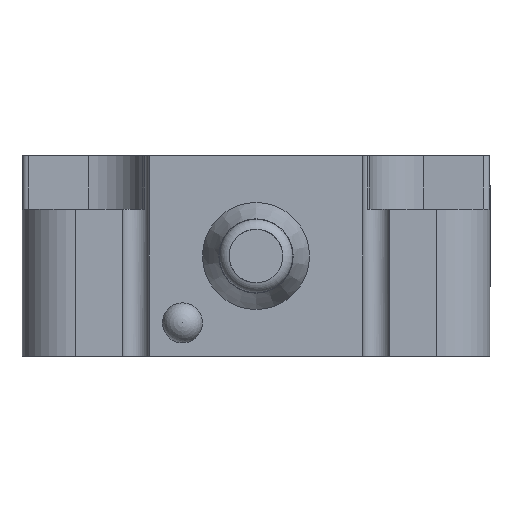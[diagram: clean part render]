
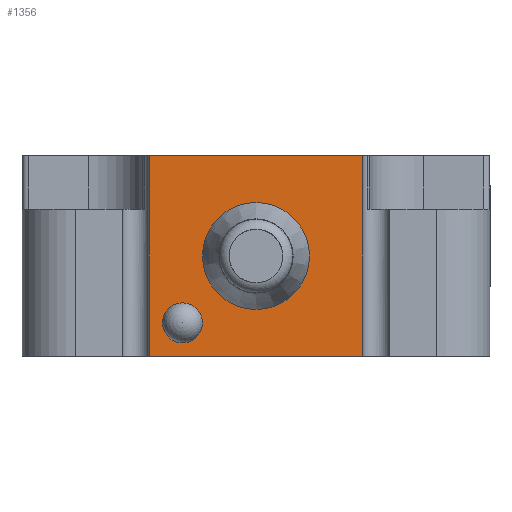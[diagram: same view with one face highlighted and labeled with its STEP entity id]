
A CAD part, left-side view. The second image highlights one B-rep face of the part: STEP entity #1356.
In plain terms, the highlighted planar face has unit normal (-1, 0, 0).
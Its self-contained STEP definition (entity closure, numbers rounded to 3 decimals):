
#1356=ADVANCED_FACE('',(#3316,#3317,#3318),#3319,.F.);
#3316=FACE_BOUND('',#5876,.T.);
#3317=FACE_BOUND('',#5877,.T.);
#3318=FACE_OUTER_BOUND('',#5878,.T.);
#3319=PLANE('',#5879);
#5876=EDGE_LOOP('',(#10337));
#5877=EDGE_LOOP('',(#10338));
#5878=EDGE_LOOP('',(#10339,#10340,#10341,#10342));
#5879=AXIS2_PLACEMENT_3D('',#10343,#10344,#10345);
#10337=ORIENTED_EDGE('',*,*,#17125,.T.);
#10338=ORIENTED_EDGE('',*,*,#17126,.T.);
#10339=ORIENTED_EDGE('',*,*,#17127,.F.);
#10340=ORIENTED_EDGE('',*,*,#16549,.F.);
#10341=ORIENTED_EDGE('',*,*,#16784,.F.);
#10342=ORIENTED_EDGE('',*,*,#16814,.T.);
#10343=CARTESIAN_POINT('',(-17.5,17.5,15.0));
#10344=DIRECTION('',(1.0,0.0,0.0));
#10345=DIRECTION('',(0.0,0.0,-1.0));
#16549=EDGE_CURVE('',#20520,#20522,#20523,.T.);
#16784=EDGE_CURVE('',#20880,#20520,#20882,.T.);
#16814=EDGE_CURVE('',#20880,#20924,#20926,.T.);
#17125=EDGE_CURVE('',#21399,#21399,#21400,.T.);
#17126=EDGE_CURVE('',#21401,#21401,#21402,.T.);
#17127=EDGE_CURVE('',#20522,#20924,#21403,.F.);
#20520=VERTEX_POINT('',#26080);
#20522=VERTEX_POINT('',#26082);
#20523=LINE('',#26083,#26084);
#20880=VERTEX_POINT('',#26603);
#20882=LINE('',#26605,#26606);
#20924=VERTEX_POINT('',#26666);
#20926=LINE('',#26668,#26669);
#21399=VERTEX_POINT('',#27371);
#21400=CIRCLE('',#27372,4.0);
#21401=VERTEX_POINT('',#27373);
#21402=CIRCLE('',#27374,1.5);
#21403=LINE('',#27375,#27376);
#26080=CARTESIAN_POINT('',(-17.5,8.0,15.));
#26082=CARTESIAN_POINT('',(-17.5,-8.0,15.));
#26083=CARTESIAN_POINT('',(-17.5,17.5,15.0));
#26084=VECTOR('',#31013,1.0);
#26603=CARTESIAN_POINT('',(-17.5,8.0,0.));
#26605=CARTESIAN_POINT('',(-17.5,8.0,0.));
#26606=VECTOR('',#31233,1.0);
#26666=CARTESIAN_POINT('',(-17.5,-8.0,0.));
#26668=CARTESIAN_POINT('',(-17.5,17.5,0.0));
#26669=VECTOR('',#31261,1.0);
#27371=CARTESIAN_POINT('',(-17.5,0.,3.5));
#27372=AXIS2_PLACEMENT_3D('',#31515,#31516,#31517);
#27373=CARTESIAN_POINT('',(-17.5,7.0,2.5));
#27374=AXIS2_PLACEMENT_3D('',#31518,#31519,#31520);
#27375=CARTESIAN_POINT('',(-17.5,-8.0,0.));
#27376=VECTOR('',#31521,1.0);
#31013=DIRECTION('',(0.0,-1.0,0.0));
#31233=DIRECTION('',(0.0,0.0,1.0));
#31261=DIRECTION('',(0.0,-1.0,0.0));
#31515=CARTESIAN_POINT('',(-17.5,0.,7.5));
#31516=DIRECTION('',(1.0,0.0,0.));
#31517=DIRECTION('',(0.,0.0,-1.0));
#31518=CARTESIAN_POINT('',(-17.5,5.5,2.5));
#31519=DIRECTION('',(1.0,0.0,0.0));
#31520=DIRECTION('',(0.0,1.0,0.0));
#31521=DIRECTION('',(0.0,0.0,1.0));
